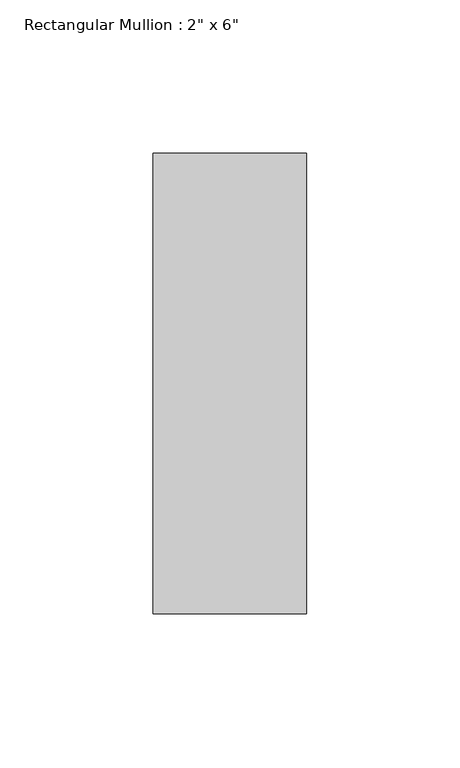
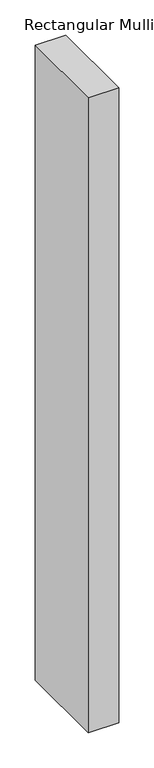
"""IFC4 building model written with IfcOpenShell, lengths in millimetres: member geometry."""

from ifc_helpers import new_model, si_unit, frame, origin, place, context, project, spatial, polyline, outline, extrude, source, transform, mapped, element, save


def member_092ba0ea(model_context):
    return source(origin(), model_context, "Body", "SweptSolid", [
        extrude(outline(polyline([(25.0, 150.0), (25.0, 0.0), (-25.0, 0.0), (-25.0, 150.0), (25.0, 150.0)])), frame((0.0, 0.0, -1099.9999995), z_axis=(0.0, 0.0, 1.0), x_axis=(1.0, 0.0, 0.0)), (0.0, 0.0, 1.0), 1099.9999995),
    ])


if __name__ == "__main__":
    model = new_model("IFC4")
    model_context = context("Model", 3, world=origin())
    ifc_project = project(units=[si_unit("LENGTHUNIT", "METRE", prefix="MILLI")], contexts=[model_context])
    site = spatial("IfcSite", under=ifc_project)
    building = spatial("IfcBuilding", under=site)
    placement = place(None, origin())
    member_shape = member_092ba0ea(model_context)
    element("IfcMember", 1, ObjectType="Rectangular Mullion : 2\" x 6\"", at=placement, inside=building, context=model_context, shape_type="MappedRepresentation", body=[
        mapped(member_shape, transform((0.0, 0.0, 0.0), x_axis=(1.0, 0.0, 0.0), y_axis=(0.0, 1.0, 0.0), z_axis=(0.0, 0.0, 1.0))),
    ])
    save(model, "model.ifc")
